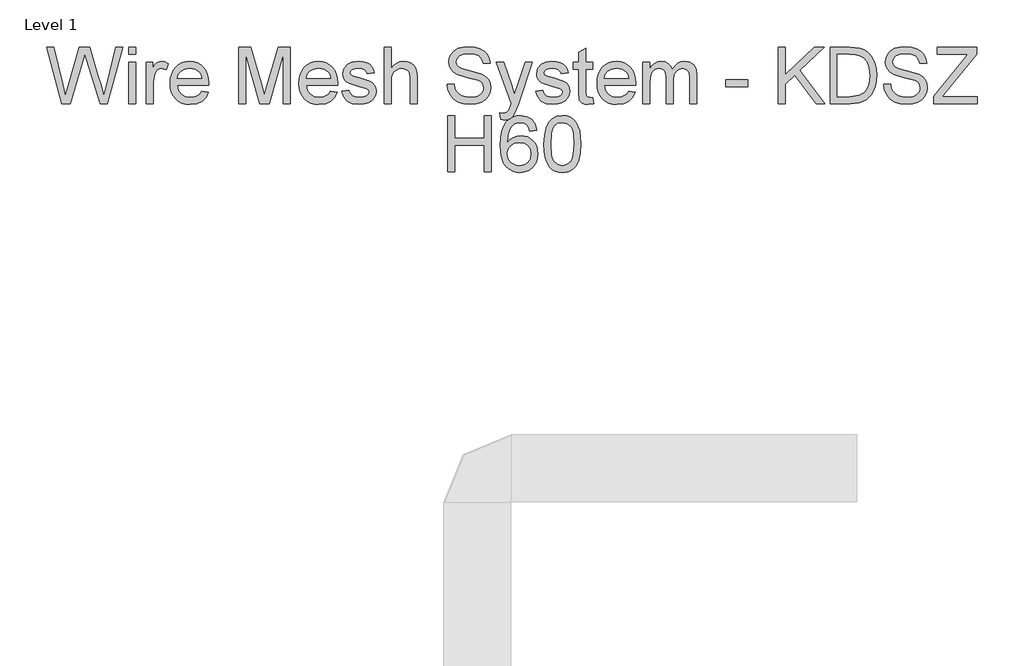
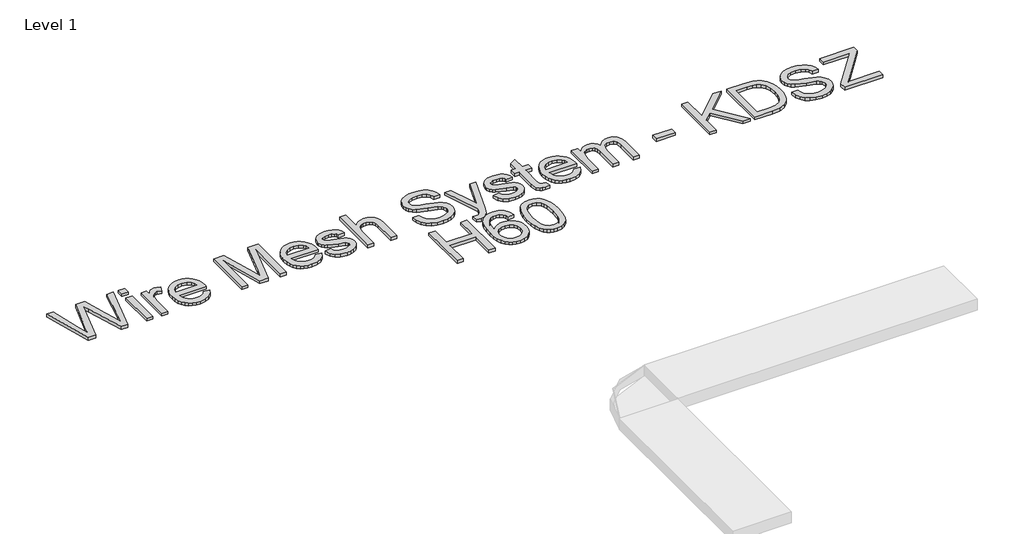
# One storey, part 25 of 32: 1 proxy.
"""IFC4 building model written with IfcOpenShell, lengths in millimetres."""

from ifc_helpers import new_model, si_unit, origin, origin_with_axes, place, context, project, spatial, polyline, outline, extrude, element, save

model = new_model("IFC4")

# Units and contexts
model_context = context("Model", 3, world=origin())
ifc_project = project(units=[si_unit("LENGTHUNIT", "METRE", prefix="MILLI")], contexts=[model_context])

# Site, building, storey
site = spatial("IfcSite", under=ifc_project)
building = spatial("IfcBuilding", under=site)
storey = spatial("IfcBuildingStorey", under=building, Name="Level 1", Elevation=0.0)

# Proxy
placement = place(None, origin())
element("IfcBuildingElementProxy", 1, Name="250mm Arial 3", ObjectType="250mm Arial 3", at=placement, inside=storey, context=model_context, shape_type="SweptSolid", body=[
    extrude(outline(polyline([(3710.2659596, 50803.1379564), (3641.7785948, 51054.2787318), (3674.1522104, 51054.2787318), (3713.8834659, 50889.2223433), (3726.146199, 50838.2706869), (3739.2673235, 50883.3362313), (3789.0540202, 51054.2787318), (3835.7137199, 51054.2787318), (3871.8887828, 50930.3638131), (3887.3858118, 50884.3785637), (3898.8054821, 50838.2706869), (3910.7003333, 50887.7508153), (3950.7994708, 51054.2787318), (3983.1730863, 51054.2787318), (3914.6244079, 50803.1379564), (3881.0858327, 50803.1379564), (3820.8758128, 50996.8891405), (3812.4758406, 51023.9284672), (3803.033536, 50991.3709106), (3748.1578051, 50803.1379564), (3710.2659596, 50803.1379564)])), origin_with_axes(), (0.0, 0.0, 1.0), 15.0),
    extrude(outline(polyline([(4010.6416086, 51022.8861348), (4010.6416086, 51054.2787318), (4042.0342056, 51054.2787318), (4042.0342056, 51022.8861348), (4010.6416086, 51022.8861348)])), origin_with_axes(), (0.0, 0.0, 1.0), 15.0),
    extrude(outline(polyline([(4010.6416086, 50803.1379564), (4010.6416086, 50987.5694633), (4042.0342056, 50987.5694633), (4042.0342056, 50803.1379564), (4010.6416086, 50803.1379564)])), origin_with_axes(), (0.0, 0.0, 1.0), 15.0),
    extrude(outline(polyline([(4089.1231009, 50803.1379564), (4089.1231009, 50987.5694633), (4116.5916233, 50987.5694633), (4116.5916233, 50960.284882), (4126.739035, 50976.1038078), (4136.089369, 50985.423485), (4155.7097421, 50991.4935379), (4171.3447269, 50989.0716481), (4187.2249663, 50981.8059787), (4176.7403295, 50953.6630061), (4154.6674098, 50960.100941), (4145.2940831, 50958.5527709), (4136.9171035, 50953.9082608), (4125.6047321, 50936.7404343), (4120.5156979, 50900.0748621), (4120.5156979, 50803.1379564), (4089.1231009, 50803.1379564)])), origin_with_axes(), (0.0, 0.0, 1.0), 15.0),
    extrude(outline(polyline([(4335.9719197, 50858.075001), (4366.75138, 50854.1509264), (4355.6612707, 50830.9590323), (4337.9646139, 50813.6225933), (4314.0599484, 50802.8160597), (4284.3458131, 50799.2138818), (4264.8672278, 50800.7678), (4247.5116283, 50805.4295547), (4232.2790144, 50813.1991458), (4219.1693862, 50824.0765733), (4208.6272678, 50837.759101), (4201.0971832, 50853.9439928), (4196.5791325, 50872.6312485), (4195.0731156, 50893.8208682), (4196.5944609, 50915.7290074), (4201.1584969, 50935.0389801), (4208.7652236, 50951.7507861), (4219.4146409, 50965.8644256), (4232.4897802, 50977.0771622), (4247.3736725, 50985.0862598), (4264.0663181, 50989.8917184), (4282.5677167, 50991.4935379), (4300.4732232, 50989.8955505), (4316.6657792, 50985.1015883), (4331.1453846, 50977.1116512), (4343.9120394, 50965.9257393), (4354.3334466, 50951.8427566), (4361.7773088, 50935.1616074), (4366.2436262, 50915.8822916), (4367.7323986, 50894.0048092), (4367.5484576, 50885.5435233), (4226.4657125, 50885.5435233), (4231.8996361, 50862.0450609), (4244.5225871, 50844.7699355), (4262.74041, 50834.1473429), (4284.9589497, 50830.6064787), (4301.6669237, 50832.2466193), (4315.73841, 50837.1670409), (4327.1734087, 50845.6743121), (4335.9719197, 50858.075001)]), holes=[polyline([(4226.4657125, 50916.9361202), (4336.3398017, 50916.9361202), (4332.0938303, 50933.5214669), (4323.7705002, 50945.3856612), (4305.4683709, 50956.4221211), (4282.4450894, 50960.100941), (4261.2842105, 50957.1655493), (4243.7868231, 50948.359374), (4231.6237246, 50934.632777), (4226.4657125, 50916.9361202)])]), origin_with_axes(), (0.0, 0.0, 1.0), 15.0),
    extrude(outline(polyline([(4501.1509355, 50803.1379564), (4501.1509355, 51054.2787318), (4555.1682752, 51054.2787318), (4606.5491272, 50877.2661784), (4616.9111367, 50840.2940379), (4628.1315375, 50880.3318617), (4678.6539982, 51054.2787318), (4732.6713378, 51054.2787318), (4732.6713378, 50803.1379564), (4701.2787409, 50803.1379564), (4701.2787409, 51022.8861348), (4638.1869788, 50803.1379564), (4595.6352946, 50803.1379564), (4532.5435325, 51022.8861348), (4532.5435325, 50803.1379564), (4501.1509355, 50803.1379564)])), origin_with_axes(), (0.0, 0.0, 1.0), 15.0),
    extrude(outline(polyline([(4912.8108882, 50858.075001), (4943.5903484, 50854.1509264), (4932.5002391, 50830.9590323), (4914.8035823, 50813.6225933), (4890.8989168, 50802.8160597), (4861.1847815, 50799.2138818), (4841.7061963, 50800.7678), (4824.3505967, 50805.4295547), (4809.1179829, 50813.1991458), (4796.0083547, 50824.0765733), (4785.4662363, 50837.759101), (4777.9361517, 50853.9439928), (4773.4181009, 50872.6312485), (4771.912084, 50893.8208682), (4773.4334293, 50915.7290074), (4777.9974653, 50935.0389801), (4785.604192, 50951.7507861), (4796.2536093, 50965.8644256), (4809.3287486, 50977.0771622), (4824.212641, 50985.0862598), (4840.9052865, 50989.8917184), (4859.4066852, 50991.4935379), (4877.3121917, 50989.8955505), (4893.5047476, 50985.1015883), (4907.984353, 50977.1116512), (4920.7510079, 50965.9257393), (4931.172415, 50951.8427566), (4938.6162773, 50935.1616074), (4943.0825946, 50915.8822916), (4944.5713671, 50894.0048092), (4944.3874261, 50885.5435233), (4803.3046809, 50885.5435233), (4808.7386046, 50862.0450609), (4821.3615555, 50844.7699355), (4839.5793785, 50834.1473429), (4861.7979182, 50830.6064787), (4878.5058921, 50832.2466193), (4892.5773784, 50837.1670409), (4904.0123771, 50845.6743121), (4912.8108882, 50858.075001)]), holes=[polyline([(4803.3046809, 50916.9361202), (4913.1787701, 50916.9361202), (4908.9327988, 50933.5214669), (4900.6094686, 50945.3856612), (4882.3073394, 50956.4221211), (4859.2840579, 50960.100941), (4838.1231789, 50957.1655493), (4820.6257915, 50948.359374), (4808.4626931, 50934.632777), (4803.3046809, 50916.9361202)])]), origin_with_axes(), (0.0, 0.0, 1.0), 15.0),
    extrude(outline(polyline([(4964.1917401, 50858.075001), (4995.5843371, 50861.9990756), (5000.5354156, 50848.5713828), (5010.1156759, 50838.6998826), (5024.3864316, 50832.6298297), (5043.4089964, 50830.6064787), (5062.201635, 50832.4612171), (5075.41473, 50838.0254323), (5083.2322224, 50846.0881793), (5085.8380532, 50855.4385134), (5083.216894, 50863.4399468), (5075.3534164, 50869.5406565), (5043.0411144, 50878.4924517), (4995.7682781, 50893.851525), (4983.804449, 50901.5693827), (4975.1362295, 50911.7857723), (4969.8709184, 50923.8492361), (4968.1158148, 50937.1083163), (4973.756672, 50960.4994798), (4989.1464021, 50978.3724134), (5009.1040004, 50987.6614338), (5036.1126702, 50991.4935379), (5056.5454493, 50989.9530321), (5074.311084, 50985.3315145), (5088.5971682, 50978.0811735), (5098.5912957, 50968.6541974), (5105.2131716, 50956.3531432), (5109.3825009, 50940.4805679), (5077.989904, 50936.5564933), (5074.0275083, 50946.4356577), (5066.1870233, 50953.8776039), (5054.3918068, 50958.5451067), (5038.5652168, 50960.100941), (5020.5389991, 50958.6140846), (5008.5215206, 50954.1535154), (5001.7616889, 50947.7155805), (4999.5084117, 50940.2966269), (5003.2485453, 50931.1608907), (5014.9594555, 50924.2324465), (5041.9987821, 50917.5492569), (5088.076002, 50902.7726634), (5100.2467647, 50895.7062634), (5109.4744714, 50886.0340326), (5115.2916055, 50873.7253142), (5117.2306501, 50858.7494513), (5114.9543803, 50843.2677507), (5108.1255708, 50828.7057551), (5097.0048046, 50816.2054314), (5081.8526649, 50806.9087468), (5063.5505357, 50801.137598), (5042.9798008, 50799.2138818), (5011.3266208, 50802.9233586), (4988.2266972, 50814.0517889), (4972.8063102, 50832.4765455), (4964.1917401, 50858.075001)])), origin_with_axes(), (0.0, 0.0, 1.0), 15.0),
    extrude(outline(polyline([(5152.5473217, 50803.1379564), (5152.5473217, 51054.2787318), (5183.9399186, 51054.2787318), (5183.9399186, 50961.940351), (5195.4707199, 50974.8698703), (5208.4193997, 50984.1052412), (5222.785958, 50989.6464637), (5238.5703949, 50991.4935379), (5257.531646, 50989.4778512), (5273.8257528, 50983.4307909), (5286.6556373, 50973.8275379), (5295.2242221, 50961.1432733), (5300.0526733, 50943.7148638), (5301.6621571, 50919.8791762), (5301.6621571, 50803.1379564), (5270.2695601, 50803.1379564), (5270.2695601, 50916.6295519), (5267.7710282, 50936.2805818), (5260.2754326, 50949.7389315), (5248.1966404, 50957.5104386), (5231.948519, 50960.100941), (5218.6817745, 50958.3535015), (5206.2274361, 50953.1111831), (5195.9114119, 50944.8798235), (5189.0596097, 50934.1652603), (5185.2198414, 50919.9251614), (5183.9399186, 50901.1171944), (5183.9399186, 50803.1379564), (5152.5473217, 50803.1379564)])), origin_with_axes(), (0.0, 0.0, 1.0), 15.0),
    extrude(outline(polyline([(5435.080694, 50889.4675979), (5466.4732909, 50889.4675979), (5470.0754688, 50872.0468526), (5476.5900458, 50858.0443442), (5486.7527859, 50846.9312422), (5501.2994531, 50838.1787164), (5519.0804162, 50832.4995381), (5538.9460439, 50830.6064787), (5556.4357671, 50832.0396856), (5571.7488552, 50836.3393065), (5584.1572083, 50843.1451234), (5592.9327267, 50852.0969186), (5598.1520525, 50862.3746218), (5599.8918278, 50873.1581628), (5594.6801662, 50892.7478791), (5586.7400465, 50900.4963936), (5573.3430105, 50907.0033064), (5527.6336726, 50918.990128), (5478.4294557, 50934.4718287), (5462.8021351, 50945.0331076), (5451.7273543, 50957.8323354), (5445.128471, 50972.5936004), (5442.9288432, 50989.0409913), (5445.6496371, 51007.4274268), (5453.8120189, 51024.5722607), (5467.2013907, 51039.1035995), (5485.6031546, 51049.64955), (5507.6914028, 51056.0644923), (5532.140227, 51058.2028064), (5558.6277307, 51055.9648576), (5581.8042964, 51049.2510112), (5600.8421896, 51038.1992229), (5614.9136759, 51022.9474485), (5623.8194859, 51004.4460498), (5627.3603501, 50983.6453887), (5595.9677532, 50983.6453887), (5590.2042686, 51002.3767136), (5578.1867901, 51015.8963769), (5559.4094799, 51024.0817513), (5533.3665003, 51026.8102095), (5506.7103841, 51024.1124082), (5488.4235833, 51016.0190043), (5477.8469759, 51004.1088247), (5474.3214401, 50989.9606963), (5476.819972, 50977.8972325), (5484.3155677, 50968.1943449), (5502.0352171, 50959.5184612), (5535.5737923, 50950.6586365), (5591.1239736, 50934.9010243), (5609.0198998, 50923.5120109), (5621.504895, 50909.455853), (5628.8395423, 50892.8858348), (5631.2844247, 50873.9552405), (5628.4716603, 50854.6031147), (5620.033367, 50836.4006201), (5606.3144343, 50820.7349785), (5587.6597515, 50808.9934115), (5565.226614, 50801.6587642), (5540.1723173, 50799.2138818), (5509.4158496, 50801.8503694), (5484.1009698, 50809.7598323), (5463.936438, 50822.9729273), (5448.6310141, 50841.5203112), (5438.8054992, 50864.1143971), (5435.080694, 50889.4675979)])), origin_with_axes(), (0.0, 0.0, 1.0), 15.0),
    extrude(outline(polyline([(5674.4492455, 50732.5046133), (5670.5251709, 50762.7322506), (5686.466724, 50759.9731356), (5701.3659448, 50763.4373577), (5710.501681, 50773.0942601), (5719.0855942, 50796.2095122), (5721.5381409, 50803.8124067), (5654.8288724, 50987.5694633), (5687.938252, 50987.5694633), (5723.3162372, 50885.1756413), (5735.640284, 50844.2181125), (5747.9643309, 50880.3931754), (5784.3233347, 50987.5694633), (5817.1874596, 50987.5694633), (5752.9920515, 50798.7233725), (5736.3147344, 50757.7658437), (5727.7768064, 50744.6907044), (5718.1045756, 50735.6316103), (5706.8688463, 50730.3433066), (5693.6404229, 50728.5805387), (5674.4492455, 50732.5046133)])), origin_with_axes(), (0.0, 0.0, 1.0), 15.0),
    extrude(outline(polyline([(5831.4122301, 50858.075001), (5862.804827, 50861.9990756), (5867.7559055, 50848.5713828), (5877.3361658, 50838.6998826), (5891.6069216, 50832.6298297), (5910.6294864, 50830.6064787), (5929.422125, 50832.4612171), (5942.63522, 50838.0254323), (5950.4527124, 50846.0881793), (5953.0585432, 50855.4385134), (5950.437384, 50863.4399468), (5942.5739063, 50869.5406565), (5910.2616044, 50878.4924517), (5862.988768, 50893.851525), (5851.024939, 50901.5693827), (5842.3567195, 50911.7857723), (5837.0914084, 50923.8492361), (5835.3363047, 50937.1083163), (5840.977162, 50960.4994798), (5856.3668921, 50978.3724134), (5876.3244904, 50987.6614338), (5903.3331602, 50991.4935379), (5923.7659393, 50989.9530321), (5941.531574, 50985.3315145), (5955.8176581, 50978.0811735), (5965.8117857, 50968.6541974), (5972.4336616, 50956.3531432), (5976.6029909, 50940.4805679), (5945.2103939, 50936.5564933), (5941.2479983, 50946.4356577), (5933.4075133, 50953.8776039), (5921.6122968, 50958.5451067), (5905.7857068, 50960.100941), (5887.759489, 50958.6140846), (5875.7420105, 50954.1535154), (5868.9821789, 50947.7155805), (5866.7289016, 50940.2966269), (5870.4690353, 50931.1608907), (5882.1799454, 50924.2324465), (5909.2192721, 50917.5492569), (5955.296492, 50902.7726634), (5967.4672547, 50895.7062634), (5976.6949614, 50886.0340326), (5982.5120954, 50873.7253142), (5984.4511401, 50858.7494513), (5982.1748703, 50843.2677507), (5975.3460607, 50828.7057551), (5964.2252946, 50816.2054314), (5949.0731549, 50806.9087468), (5930.7710256, 50801.137598), (5910.2002907, 50799.2138818), (5878.5471107, 50802.9233586), (5855.4471871, 50814.0517889), (5840.0268002, 50832.4765455), (5831.4122301, 50858.075001)])), origin_with_axes(), (0.0, 0.0, 1.0), 15.0),
    extrude(outline(polyline([(6086.4770801, 50829.3188917), (6090.4011547, 50802.2182514), (6066.9180207, 50799.2138818), (6051.8501873, 50800.5167972), (6040.614458, 50804.4255434), (6027.4933335, 50818.0984909), (6023.6918863, 50853.7217307), (6023.6918863, 50956.1768664), (6000.1474386, 50956.1768664), (6000.1474386, 50987.5694633), (6023.6918863, 50987.5694633), (6023.6918863, 51032.3897531), (6055.0844832, 51050.8451665), (6055.0844832, 50987.5694633), (6086.4770801, 50987.5694633), (6086.4770801, 50956.1768664), (6055.0844832, 50956.1768664), (6055.0844832, 50854.6414357), (6056.7399522, 50838.4546279), (6062.1048979, 50832.7218002), (6072.8041326, 50830.6064787), (6086.4770801, 50829.3188917)])), origin_with_axes(), (0.0, 0.0, 1.0), 15.0),
    extrude(outline(polyline([(6246.9962573, 50858.075001), (6277.7757176, 50854.1509264), (6266.6856083, 50830.9590323), (6248.9889515, 50813.6225933), (6225.084286, 50802.8160597), (6195.3701507, 50799.2138818), (6175.8915654, 50800.7678), (6158.5359659, 50805.4295547), (6143.303352, 50813.1991458), (6130.1937239, 50824.0765733), (6119.6516054, 50837.759101), (6112.1215208, 50853.9439928), (6107.6034701, 50872.6312485), (6106.0974532, 50893.8208682), (6107.6187985, 50915.7290074), (6112.1828345, 50935.0389801), (6119.7895612, 50951.7507861), (6130.4389785, 50965.8644256), (6143.5141178, 50977.0771622), (6158.3980102, 50985.0862598), (6175.0906557, 50989.8917184), (6193.5920544, 50991.4935379), (6211.4975608, 50989.8955505), (6227.6901168, 50985.1015883), (6242.1697222, 50977.1116512), (6254.9363771, 50965.9257393), (6265.3577842, 50951.8427566), (6272.8016464, 50935.1616074), (6277.2679638, 50915.8822916), (6278.7567362, 50894.0048092), (6278.5727952, 50885.5435233), (6137.4900501, 50885.5435233), (6142.9239737, 50862.0450609), (6155.5469247, 50844.7699355), (6173.7647477, 50834.1473429), (6195.9832873, 50830.6064787), (6212.6912613, 50832.2466193), (6226.7627476, 50837.1670409), (6238.1977463, 50845.6743121), (6246.9962573, 50858.075001)]), holes=[polyline([(6137.4900501, 50916.9361202), (6247.3641393, 50916.9361202), (6243.118168, 50933.5214669), (6234.7948378, 50945.3856612), (6216.4927086, 50956.4221211), (6193.469427, 50960.100941), (6172.3085481, 50957.1655493), (6154.8111607, 50948.359374), (6142.6480622, 50934.632777), (6137.4900501, 50916.9361202)])]), origin_with_axes(), (0.0, 0.0, 1.0), 15.0),
    extrude(outline(polyline([(6310.1493332, 50803.1379564), (6310.1493332, 50987.5694633), (6341.5419301, 50987.5694633), (6341.5419301, 50957.2191987), (6350.9842346, 50971.1603935), (6363.1243405, 50982.0818902), (6377.5483804, 50989.140626), (6393.8424871, 50991.4935379), (6411.3015534, 50989.0946407), (6425.2963977, 50981.8979492), (6435.7503777, 50970.3786442), (6442.5868514, 50955.0119067), (6454.0295143, 50970.9726204), (6467.0816609, 50982.3731301), (6481.7432913, 50989.213436), (6498.0144054, 50991.4935379), (6521.6125025, 50987.6997549), (6539.0639047, 50976.3184056), (6549.8474456, 50957.0429219), (6553.4419593, 50929.5667354), (6553.4419593, 50803.1379564), (6522.0493624, 50803.1379564), (6522.0493624, 50916.0777289), (6519.1369633, 50942.2893211), (6508.5910127, 50955.1958477), (6490.6567655, 50960.100941), (6473.6498874, 50956.9586156), (6459.7853347, 50947.5316395), (6450.5652922, 50931.1762191), (6447.4919447, 50907.248561), (6447.4919447, 50803.1379564), (6416.0993478, 50803.1379564), (6416.0993478, 50919.5726079), (6414.2829304, 50937.3229141), (6408.8336784, 50949.9841861), (6399.2457539, 50957.5717523), (6385.0133192, 50960.100941), (6372.9191986, 50958.4148152), (6361.7754398, 50953.3564378), (6352.5783899, 50945.048436), (6346.324396, 50933.6134374), (6341.5419301, 50896.1507875), (6341.5419301, 50803.1379564), (6310.1493332, 50803.1379564)])), origin_with_axes(), (0.0, 0.0, 1.0), 15.0),
    extrude(outline(polyline([(6682.9364216, 50877.6953741), (6682.9364216, 50909.087971), (6781.038287, 50909.087971), (6781.038287, 50877.6953741), (6682.9364216, 50877.6953741)])), origin_with_axes(), (0.0, 0.0, 1.0), 15.0),
    extrude(outline(polyline([(6918.3808985, 50803.1379564), (6918.3808985, 51054.2787318), (6949.7734954, 51054.2787318), (6949.7734954, 50931.3448317), (7078.5321938, 51054.2787318), (7122.4327785, 51054.2787318), (7014.3367856, 50951.0265185), (7126.3568531, 50803.1379564), (7087.9744983, 50803.1379564), (6992.0799249, 50929.8119901), (6949.7734954, 50889.4675979), (6949.7734954, 50803.1379564), (6918.3808985, 50803.1379564)])), origin_with_axes(), (0.0, 0.0, 1.0), 15.0),
    extrude(outline(polyline([(7149.9013008, 50803.1379564), (7149.9013008, 51054.2787318), (7236.5375107, 51054.2787318), (7281.3578004, 51050.6612255), (7301.3767123, 51043.686796), (7318.2686273, 51032.6963214), (7335.6357231, 51013.5664576), (7348.0057552, 50989.7767553), (7355.4093804, 50961.7870668), (7357.8772554, 50930.0572447), (7356.206458, 50903.1022244), (7351.1940658, 50879.3814999), (7343.5605144, 50859.1863112), (7334.0262394, 50842.8078982), (7311.0949284, 50820.0298713), (7281.0818889, 50807.429913), (7240.70684, 50803.1379564), (7149.9013008, 50803.1379564)]), holes=[polyline([(7181.2938977, 50834.5305533), (7236.844079, 50834.5305533), (7277.2497848, 50839.0677646), (7300.5489778, 50851.8823208), (7311.4551462, 50865.470962), (7319.6481848, 50883.0603198), (7324.7755401, 50904.7270365), (7326.4846585, 50930.5477541), (7323.1353995, 50964.7607796), (7313.0876225, 50990.0220099), (7298.2420512, 51007.3737774), (7280.4994091, 51017.8584142), (7262.4425345, 51021.6292047), (7235.9856877, 51022.8861348), (7181.2938977, 51022.8861348), (7181.2938977, 50834.5305533)])]), origin_with_axes(), (0.0, 0.0, 1.0), 15.0),
    extrude(outline(polyline([(7389.2698523, 50889.4675979), (7420.6624493, 50889.4675979), (7424.2646271, 50872.0468526), (7430.7792041, 50858.0443442), (7440.9419443, 50846.9312422), (7455.4886115, 50838.1787164), (7473.2695746, 50832.4995381), (7493.1352023, 50830.6064787), (7510.6249255, 50832.0396856), (7525.9380136, 50836.3393065), (7538.3463667, 50843.1451234), (7547.1218851, 50852.0969186), (7552.3412109, 50862.3746218), (7554.0809862, 50873.1581628), (7548.8693246, 50892.7478791), (7540.9292049, 50900.4963936), (7527.5321689, 50907.0033064), (7481.822831, 50918.990128), (7432.6186141, 50934.4718287), (7416.9912935, 50945.0331076), (7405.9165126, 50957.8323354), (7399.3176293, 50972.5936004), (7397.1180016, 50989.0409913), (7399.8387955, 51007.4274268), (7408.0011773, 51024.5722607), (7421.3905491, 51039.1035995), (7439.792313, 51049.64955), (7461.8805611, 51056.0644923), (7486.3293854, 51058.2028064), (7512.8168891, 51055.9648576), (7535.9934548, 51049.2510112), (7555.031348, 51038.1992229), (7569.1028343, 51022.9474485), (7578.0086443, 51004.4460498), (7581.5495085, 50983.6453887), (7550.1569116, 50983.6453887), (7544.393427, 51002.3767136), (7532.3759485, 51015.8963769), (7513.5986383, 51024.0817513), (7487.5556587, 51026.8102095), (7460.8995425, 51024.1124082), (7442.6127416, 51016.0190043), (7432.0361343, 51004.1088247), (7428.5105985, 50989.9606963), (7431.0091304, 50977.8972325), (7438.504726, 50968.1943449), (7456.2243755, 50959.5184612), (7489.7629507, 50950.6586365), (7545.313132, 50934.9010243), (7563.2090582, 50923.5120109), (7575.6940534, 50909.455853), (7583.0287007, 50892.8858348), (7585.4735831, 50873.9552405), (7582.6608187, 50854.6031147), (7574.2225254, 50836.4006201), (7560.5035927, 50820.7349785), (7541.8489098, 50808.9934115), (7519.4157724, 50801.6587642), (7494.3614756, 50799.2138818), (7463.605008, 50801.8503694), (7438.2901282, 50809.7598323), (7418.1255963, 50822.9729273), (7402.8201725, 50841.5203112), (7392.9946576, 50864.1143971), (7389.2698523, 50889.4675979)])), origin_with_axes(), (0.0, 0.0, 1.0), 15.0),
    extrude(outline(polyline([(7612.9421054, 50803.1379564), (7612.9421054, 50835.695513), (7741.3942354, 50992.9650659), (7765.7970744, 51022.8861348), (7628.6384039, 51022.8861348), (7628.6384039, 51054.2787318), (7805.2217616, 51054.2787318), (7805.2217616, 51022.8861348), (7664.6295257, 50850.7786748), (7651.3857739, 50834.5305533), (7809.1458362, 50834.5305533), (7809.1458362, 50803.1379564), (7612.9421054, 50803.1379564)])), origin_with_axes(), (0.0, 0.0, 1.0), 15.0),
    extrude(outline(polyline([(5437.0427313, 50498.2009118), (5437.0427313, 50749.3416872), (5468.4353282, 50749.3416872), (5468.4353282, 50647.3157472), (5601.8538651, 50647.3157472), (5601.8538651, 50749.3416872), (5633.246462, 50749.3416872), (5633.246462, 50498.2009118), (5601.8538651, 50498.2009118), (5601.8538651, 50615.9231502), (5468.4353282, 50615.9231502), (5468.4353282, 50498.2009118), (5437.0427313, 50498.2009118)])), origin_with_axes(), (0.0, 0.0, 1.0), 15.0),
    extrude(outline(polyline([(5837.298342, 50682.6324187), (5805.9057451, 50678.7083441), (5800.8473677, 50694.2666868), (5794.0108939, 50704.8892794), (5779.770795, 50714.6841375), (5762.5569833, 50717.9490902), (5747.9643309, 50716.0483666), (5734.2300697, 50710.3461957), (5722.4348532, 50698.3363814), (5712.8009435, 50681.8046842), (5706.2940307, 50658.4211849), (5703.8798051, 50625.8559641), (5716.4720992, 50640.5482513), (5731.5629252, 50650.9025966), (5748.3092202, 50657.0416274), (5765.8679213, 50659.087971), (5794.8692853, 50653.493099), (5819.2108106, 50636.708483), (5828.8408882, 50624.7025008), (5835.7195151, 50611.0640422), (5841.2224166, 50578.8896961), (5838.6319143, 50556.4105733), (5830.8604071, 50535.5715911), (5818.5516887, 50517.8979269), (5802.3495525, 50504.9147582), (5782.9897625, 50496.9363174), (5761.2080827, 50494.2768372), (5742.4940022, 50496.0396051), (5725.592507, 50501.3279087), (5710.5035971, 50510.1417482), (5697.2272724, 50522.4811235), (5686.4034943, 50538.8672007), (5678.6722242, 50559.821146), (5674.0334622, 50585.3429594), (5672.4872082, 50615.4326409), (5674.2039908, 50649.1666534), (5679.3543388, 50677.9572517), (5687.938252, 50701.8044356), (5699.9557305, 50720.7082052), (5712.9810524, 50733.2353536), (5728.0833747, 50742.1833167), (5745.2626975, 50747.5520945), (5764.5190207, 50749.3416872), (5792.064185, 50744.9117748), (5814.1217763, 50731.6220377), (5829.5728201, 50710.5148082), (5837.298342, 50682.6324187)]), holes=[polyline([(5703.8798051, 50579.3802054), (5705.6962225, 50565.4696674), (5711.1454745, 50552.1875946), (5719.6067604, 50540.7679243), (5730.4592793, 50532.4445942), (5743.5574111, 50527.3632241), (5758.7555361, 50525.6694341), (5779.4718909, 50529.1796415), (5795.7583334, 50539.7102636), (5806.3119481, 50556.2649534), (5809.8298197, 50577.8473637), (5806.3579334, 50598.5637186), (5795.9422744, 50614.3596518), (5779.3799204, 50624.3614435), (5757.4679491, 50627.6953741), (5736.7822511, 50624.3614435), (5719.4841331, 50614.3596518), (5707.7808871, 50598.946929), (5703.8798051, 50579.3802054)])]), origin_with_axes(), (0.0, 0.0, 1.0), 15.0),
    extrude(outline(polyline([(5868.690939, 50621.7479485), (5870.9978656, 50661.9467207), (5877.9186457, 50694.0061037), (5889.3843012, 50718.4166069), (5905.3258543, 50735.6687397), (5925.8582682, 50745.9234503), (5951.0965059, 50749.3416872), (5970.4409675, 50747.3183362), (5987.7620781, 50741.2482833), (6002.2474316, 50731.3691189), (6013.0846221, 50717.9184334), (6027.7999019, 50680.7623519), (6032.0765301, 50655.0489333), (6033.5020728, 50621.7479485), (6031.2181387, 50581.7791026), (6024.3663366, 50549.7963616), (6012.9696589, 50525.3628658), (5997.0510984, 50508.0417552), (5976.4726993, 50497.7180667), (5951.0965059, 50494.2768372), (5933.8060521, 50495.7713578), (5918.4776356, 50500.2549196), (5905.1112565, 50507.7275226), (5893.7069146, 50518.1891669), (5882.7624253, 50537.1006007), (5874.9449329, 50560.6642089), (5870.2544374, 50588.8799915), (5868.690939, 50621.7479485)]), holes=[polyline([(5900.0835359, 50621.8092622), (5903.7623558, 50572.4287685), (5908.3608808, 50555.5387696), (5914.7988157, 50543.848936), (5931.2308781, 50530.2143096), (5951.0965059, 50525.6694341), (5970.9621336, 50530.229638), (5987.3941961, 50543.9102497), (5993.832131, 50555.6192438), (5998.4306559, 50572.5054106), (6002.1094759, 50621.8092622), (5998.5532832, 50670.0784456), (5994.1080425, 50686.912879), (5987.8847054, 50698.8805402), (5971.4832998, 50713.1819527), (5950.7286239, 50717.9490902), (5931.077594, 50713.7491041), (5915.289325, 50701.1491458), (5908.6367923, 50688.1199918), (5903.8849832, 50670.5536265), (5900.0835359, 50621.8092622)])]), origin_with_axes(), (0.0, 0.0, 1.0), 15.0),
])

save(model, "model.ifc")
